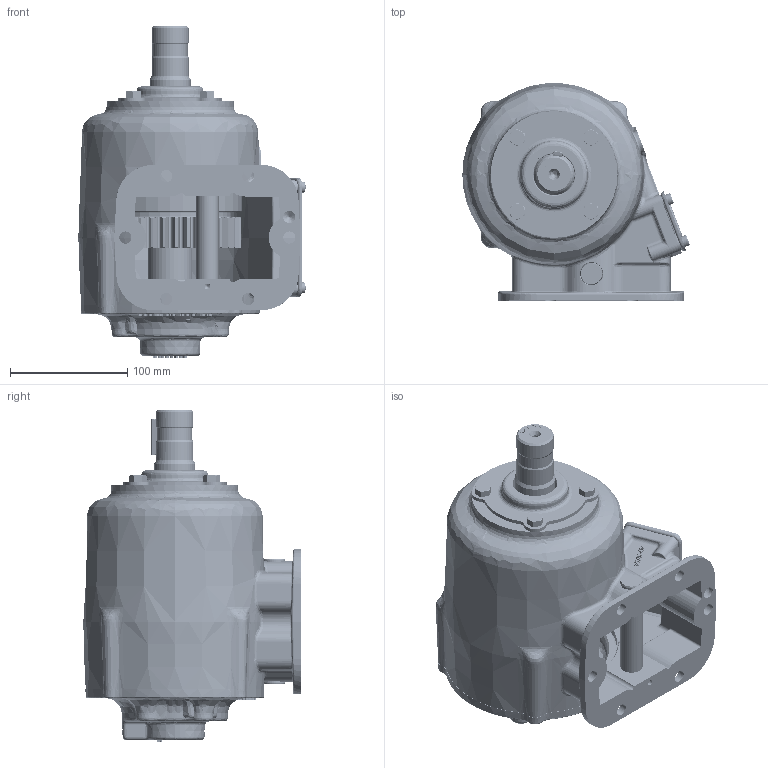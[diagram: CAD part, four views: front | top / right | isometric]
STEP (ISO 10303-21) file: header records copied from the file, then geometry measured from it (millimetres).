
FILE_DESCRIPTION (( 'STEP AP203' ), '1' );
FILE_NAME ('CS6B-A6XXX-H3BX.STEP', '2023-04-12T20:26:52', ( '' ), ( '' ), 'SwSTEP 2.0', 'SolidWorks 2021', '' );
FILE_SCHEMA (( 'CONFIG_CONTROL_DESIGN' ));
Length unit declared in the file: inch
Products named in the file (34): 15T34576; 19T41118; 11T36124-1; 12T34003; 26t36175; 07T37071; 21T29017; 24T36470; 49T33563; 15T36717; 26T01627; 49T33564; CS6B-A6XXX-H3BX; 25T21684; 21T36473; 21T36511; 01T37072-01; 24T35480; CS6_8 OUTPUT SHAFTS_06T36892; 21T36512; 49T38878; 12T36471; 02T38792; 24T27240; 10T21017; 12T36472; 49T36464; 10T36285; 19T36174; 27T38791; 16T41119; 02T36747; 19T33233; 24T36894
Assembly tree (62 placements, depth 2):
  CS6B-A6XXX-H3BX
    01T37072-01
    16T41119
    15T36717
    12T34003
    25T21684  x4
    19T41118  x4
    07T37071
    19T36174  x4
    CS6_8 OUTPUT SHAFTS_06T36892
    11T36124-1
    24T36894
    10T21017
    26t36175  x2
    21T36473
    21T36511
    21T36512
    24T27240
    24T35480  x2
    21T29017  x2
    10T36285
    02T36747
    02T38792
    49T33564  x8
    49T33563  x7
    49T38878
    12T36472
    27T38791
    49T36464
    24T36470
    12T36471  x2
    15T34576
    26T01627
    19T33233  x4
Bounding box: 193.76 x 185.25 x 282.99 mm (x, y, z)
Volume: 2335051.8 mm3; surface area: 828598.8 mm2
Topology: 76 solids, 84 shells, 9395 faces, 26518 edges, 17294 vertices
Faces by surface type: plane 3234, cylinder 3091, bspline 1970, cone 715, torus 354, sphere 31
Entity records: 422736 total; most frequent: CARTESIAN_POINT 299426, ORIENTED_EDGE 27964, DIRECTION 20485, EDGE_CURVE 13983, VERTEX_POINT 9038, AXIS2_PLACEMENT_3D 7925, EDGE_LOOP 5428, FACE_OUTER_BOUND 5147
